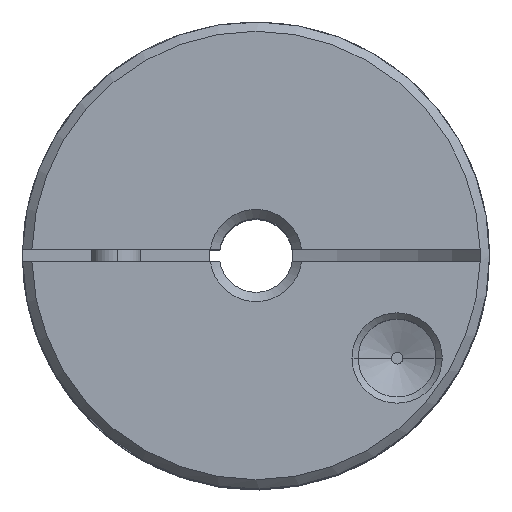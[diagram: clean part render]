
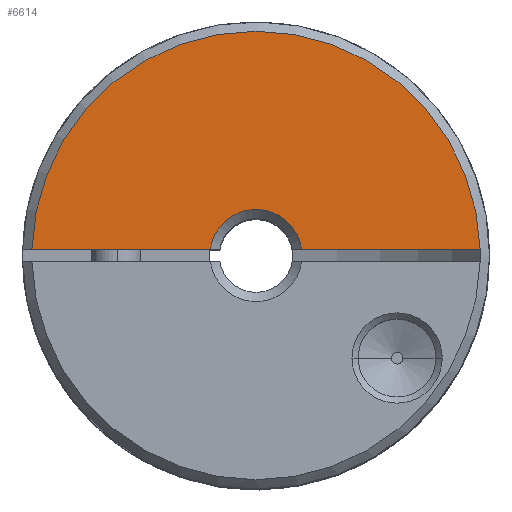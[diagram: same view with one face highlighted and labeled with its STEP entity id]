
A CAD part, top view. The second image highlights one B-rep face of the part: STEP entity #6614.
In plain terms, the highlighted planar face has unit normal (0, 0, 1).
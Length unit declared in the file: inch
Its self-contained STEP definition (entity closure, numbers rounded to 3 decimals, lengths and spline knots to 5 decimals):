
#1722=CARTESIAN_POINT('',(0.,0.,0.25));
#1723=DIRECTION('',(0.,0.,-1.));
#1724=DIRECTION('',(-0.991,0.135,0.));
#1725=AXIS2_PLACEMENT_3D('',#1722,#1723,#1724);
#1734=DIRECTION('',(-1.,0.,0.));
#1735=VECTOR('',#1734,0.28656);
#1736=CARTESIAN_POINT('',(0.35993,0.01,
0.24998));
#1737=LINE('',#1736,#1735);
#1764=CARTESIAN_POINT('',(0.,0.,0.25));
#1765=DIRECTION('',(0.,0.,1.));
#1766=DIRECTION('',(1.,0.028,0.));
#1767=AXIS2_PLACEMENT_3D('',#1764,#1765,#1766);
#1853=DIRECTION('',(-1.,0.,0.));
#1854=VECTOR('',#1853,0.28649);
#1855=CARTESIAN_POINT('',(-0.07337,0.01,0.25));
#1856=LINE('',#1855,#1854);
#3357=CARTESIAN_POINT('',(0.35993,0.01,
0.24998));
#3358=CARTESIAN_POINT('',(0.07337,0.01,
0.24999));
#3359=VERTEX_POINT('',#3357);
#3360=VERTEX_POINT('',#3358);
#3361=CARTESIAN_POINT('',(-0.35986,0.01,0.25));
#3362=VERTEX_POINT('',#3361);
#3363=CARTESIAN_POINT('',(-0.07337,0.01,0.25));
#3364=VERTEX_POINT('',#3363);
#6601=CARTESIAN_POINT('',(0.,0.,0.25));
#6602=DIRECTION('',(0.,0.,1.));
#6603=DIRECTION('',(1.,0.,0.));
#6604=AXIS2_PLACEMENT_3D('',#6601,#6602,#6603);
#6605=PLANE('',#6604);
#6607=ORIENTED_EDGE('',*,*,#6606,.F.);
#6608=ORIENTED_EDGE('',*,*,#6566,.T.);
#6609=ORIENTED_EDGE('',*,*,#6585,.F.);
#6611=ORIENTED_EDGE('',*,*,#6610,.T.);
#6612=EDGE_LOOP('',(#6607,#6608,#6609,#6611));
#6613=FACE_OUTER_BOUND('',#6612,.F.);
#1726=CIRCLE('',#1725,0.07405);
#1768=CIRCLE('',#1767,0.36);
#6566=EDGE_CURVE('',#3359,#3360,#1737,.T.);
#6585=EDGE_CURVE('',#3364,#3360,#1726,.T.);
#6606=EDGE_CURVE('',#3359,#3362,#1768,.T.);
#6610=EDGE_CURVE('',#3364,#3362,#1856,.T.);
#6614=ADVANCED_FACE('',(#6613),#6605,.T.);
